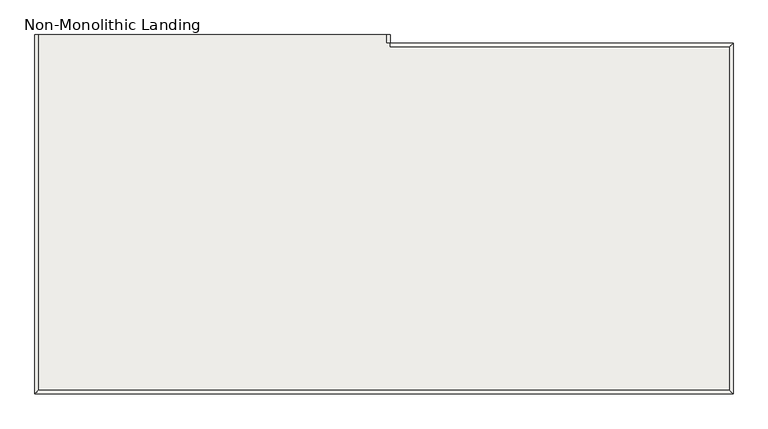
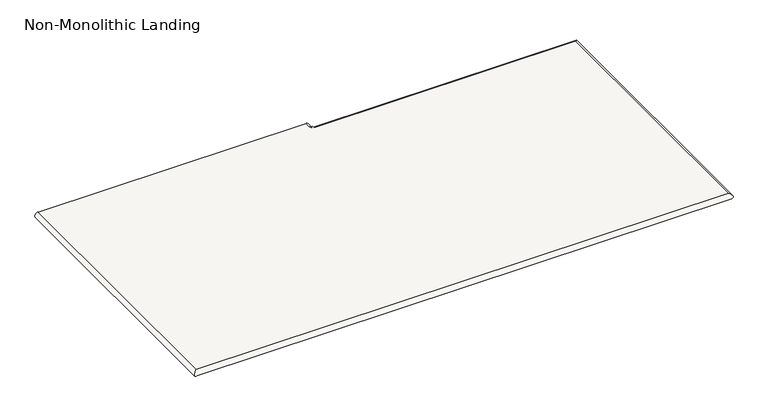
"""IFC4 building model written with IfcOpenShell, lengths in millimetres: slab geometry, Non-Monolithic Landing."""

from ifc_helpers import new_model, si_unit, frame, origin, place, context, project, spatial, circle_curve, ellipse_curve, source, transform, mapped, element, save
from ifc_brep_helpers import plane_surface, cylinder_surface, advanced_brep


def non_monolithic_landing_5de16363(model_context):
    return source(origin(), model_context, "Body", "AdvancedBrep", [
        advanced_brep(
        [(-10517.8887578, -3275.3234188, 1630.4558824), (-10517.8887578, -3262.6234188, 1630.4558824), (-10530.0054092, -3262.6234188, 1630.4558824), (-10530.0054092, -3237.2234188, 1630.4558824), (-11608.6970616, -3237.2234188, 1630.4558824), (-11608.6970616, -3262.6234188, 1630.4558824), (-11608.6970616, -4341.3150713, 1630.4558824), (-9463.7887578, -4341.3150713, 1630.4558824), (-9463.7887578, -3275.3234188, 1630.4558824), (-10517.8887578, -3262.6234188, 1605.0558824), (-10517.8887578, -3275.3234188, 1605.0558824), (-9463.7887578, -3275.3234188, 1605.0558824), (-9463.7887578, -4341.3150713, 1605.0558824), (-11608.6970616, -4341.3150713, 1605.0558824), (-11608.6970616, -3262.6234188, 1605.0558824), (-11608.6970616, -3237.2234188, 1605.0558824), (-10530.0054092, -3237.2234188, 1605.0558824), (-10530.0054092, -3262.6234188, 1605.0558824), (-10517.8887578, -3263.2067674, 1621.5607161), (-10517.8887578, -3262.6234188, 1621.5607161), (-10517.8887578, -3262.6234188, 1613.9510486), (-10517.8887578, -3263.2067674, 1613.9510486)],
        [
            (0, 1),
            (1, 2),
            (2, 3),
            (3, 4),
            (4, 5),
            (5, 6),
            (6, 7),
            (7, 8),
            (8, 0),
            (9, 10),
            (10, 11),
            (11, 12),
            (12, 13),
            (13, 14),
            (14, 15),
            (15, 16),
            (16, 17),
            (17, 9),
            (0, 18, circle_curve(frame((-10517.8887578, -3275.3234188, 1617.7558824), z_axis=(-1.0, 0.0, 0.0), x_axis=(0.0, -1.0, 0.0)), 12.7)),
            (18, 19),
            (19, 1),
            (9, 20),
            (20, 21),
            (21, 10, circle_curve(frame((-10517.8887578, -3275.3234188, 1617.7558824), z_axis=(-1.0, 0.0, 0.0), x_axis=(0.0, -1.0, 0.0)), 12.7)),
            (19, 2, circle_curve(frame((-10530.0054092, -3262.6234188, 1617.7558824), z_axis=(0.0, -1.0, 0.0), x_axis=(-1.0, 0.0, 0.0)), 12.7)),
            (17, 20, circle_curve(frame((-10530.0054092, -3262.6234188, 1617.7558824), z_axis=(0.0, -1.0, 0.0), x_axis=(-1.0, 0.0, 0.0)), 12.7)),
            (3, 16, circle_curve(frame((-10530.0054092, -3237.2234188, 1617.7558824), z_axis=(0.0, 1.0, 0.0), x_axis=(-1.0, 0.0, 0.0)), 12.7)),
            (15, 4, circle_curve(frame((-11608.6970616, -3237.2234188, 1617.7558824), z_axis=(0.0, 1.0, 0.0), x_axis=(1.0, 0.0, 0.0)), 12.7)),
            (18, 21, ellipse_curve(frame((-10530.0054092, -3275.3234188, 1617.7558824), z_axis=(-0.7071067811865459, 0.7071067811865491, 0.0), x_axis=(0.707106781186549, 0.7071067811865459, 0.0)), 17.9605122, 12.7)),
            (8, 11, ellipse_curve(frame((-9463.7887578, -3275.3234188, 1617.7558824), z_axis=(-0.707106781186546, 0.707106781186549, 0.0), x_axis=(-0.707106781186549, -0.707106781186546, 0.0)), 17.9605122, 12.7)),
            (7, 12, ellipse_curve(frame((-9463.7887578, -4341.3150713, 1617.7558824), z_axis=(0.7071067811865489, 0.707106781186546, 0.0), x_axis=(-0.7071067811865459, 0.707106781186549, 0.0)), 17.9605122, 12.7)),
            (6, 13, ellipse_curve(frame((-11608.6970616, -4341.3150713, 1617.7558824), z_axis=(0.7071067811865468, -0.7071067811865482, 0.0), x_axis=(0.7071067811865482, 0.7071067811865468, 0.0)), 17.9605122, 12.7)),
        ],
        [
            plane_surface(frame((-9463.7887578, -3275.3234188, 1630.4558824), z_axis=(0.0, 0.0, 1.0), x_axis=(-1.0, 0.0, 0.0))),
            plane_surface(frame((-9463.7887578, -3275.3234188, 1605.0558824), z_axis=(0.0, 0.0, -1.0), x_axis=(1.0, 0.0, 0.0))),
            plane_surface(frame((-10517.8887578, -3275.3234188, 1630.4558824), z_axis=(1.0, 0.0, 0.0), x_axis=(0.0, 0.0, -1.0))),
            plane_surface(frame((-10517.8887578, -3262.6234188, 1630.4558824), z_axis=(6.6133921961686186e-12, 1.0, 0.0), x_axis=(0.0, 0.0, -1.0))),
            plane_surface(frame((-10530.0054092, -3237.2234188, 1630.4558824), z_axis=(0.0, 1.0, 0.0), x_axis=(0.0, 0.0, -1.0))),
            cylinder_surface(frame((-10530.0054092, -3237.2234188, 1617.7558824), z_axis=(0.0, 1.0, 0.0), x_axis=(-1.0, 0.0, 0.0)), 12.7),
            cylinder_surface(frame((-10530.0054092, -3275.3234188, 1617.7558824), z_axis=(-1.0, 0.0, 0.0), x_axis=(0.0, -1.0, 0.0)), 12.7),
            cylinder_surface(frame((-9463.7887578, -3275.3234188, 1617.7558824), z_axis=(0.0, 1.0, 0.0), x_axis=(-1.0, 0.0, 0.0)), 12.7),
            cylinder_surface(frame((-9463.7887578, -4341.3150713, 1617.7558824), z_axis=(1.0, 0.0, 0.0), x_axis=(0.0, 1.0, 0.0)), 12.7),
            cylinder_surface(frame((-11608.6970616, -4341.3150713, 1617.7558824), z_axis=(0.0, -1.0, 0.0), x_axis=(1.0, 0.0, 0.0)), 12.7),
        ],
        [
            (0, [[1, 2, 3, 4, 5, 6, 7, 8, 9]]),
            (1, [[10, 11, 12, 13, 14, 15, 16, 17, 18]]),
            (2, [[-1, 19, 20, 21]]),
            (2, [[-10, 22, 23, 24]]),
            (3, [[-2, -21, 25]]),
            (3, [[-18, 26, -22]]),
            (4, [[-4, 27, -16, 28]]),
            (5, [[-27, -3, -25, -20, 29, -23, -26, -17]]),
            (6, [[30, -11, -24, -29, -19, -9]]),
            (7, [[-30, -8, 31, -12]]),
            (8, [[-31, -7, 32, -13]]),
            (9, [[-32, -6, -5, -28, -15, -14]]),
        ],
    ),
    ])


if __name__ == "__main__":
    model = new_model("IFC4")
    model_context = context("Model", 3, world=origin())
    ifc_project = project(units=[si_unit("LENGTHUNIT", "METRE", prefix="MILLI")], contexts=[model_context])
    site = spatial("IfcSite", under=ifc_project)
    building = spatial("IfcBuilding", under=site)
    placement = place(None, origin())
    non_monolithic_landing_shape = non_monolithic_landing_5de16363(model_context)
    element("IfcSlab", 1, ObjectType="Non-Monolithic Landing", at=placement, inside=building, context=model_context, shape_type="MappedRepresentation", body=[
        mapped(non_monolithic_landing_shape, transform((0.0, 0.0, 0.0), x_axis=(1.0, 0.0, 0.0), y_axis=(0.0, 1.0, 0.0), z_axis=(0.0, 0.0, 1.0))),
    ])
    save(model, "model.ifc")
